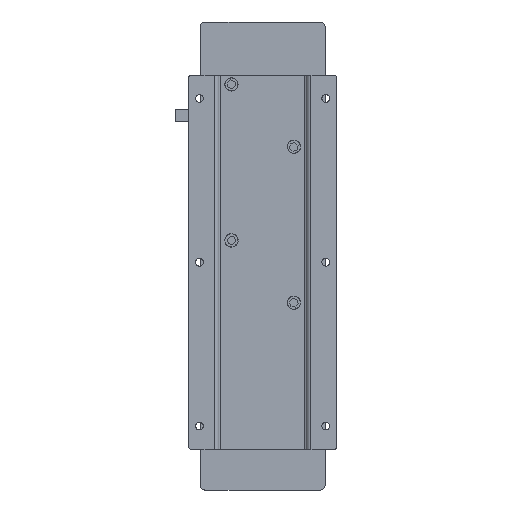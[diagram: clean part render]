
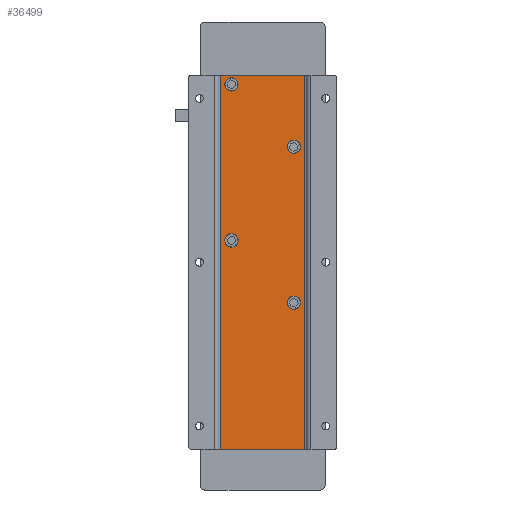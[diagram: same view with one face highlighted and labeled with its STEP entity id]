
A CAD part, left-side view. The second image highlights one B-rep face of the part: STEP entity #36499.
In plain terms, the highlighted planar face has unit normal (-1, 0, 0) as drawn and (0, 0, -1) by its records, which use the part's own axes.
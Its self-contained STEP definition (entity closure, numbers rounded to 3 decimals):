
#96 = CARTESIAN_POINT ( 'NONE',  ( -120., 27., -2. ) ) ;
#215 = ORIENTED_EDGE ( 'NONE', *, *, #20858, .T. ) ;
#477 = DIRECTION ( 'NONE',  ( 0., 0., 1. ) ) ;
#755 = DIRECTION ( 'NONE',  ( 1., 0., 0. ) ) ;
#795 = CARTESIAN_POINT ( 'NONE',  ( -70.75, -20., -2. ) ) ;
#954 = DIRECTION ( 'NONE',  ( 1., 0., 0. ) ) ;
#1158 = PLANE ( 'NONE',  #14494 ) ;
#1182 = VERTEX_POINT ( 'NONE', #6146 ) ;
#1334 = CIRCLE ( 'NONE', #19729, 3.25 ) ;
#1970 = CARTESIAN_POINT ( 'NONE',  ( -17.25, 20., -2. ) ) ;
#2061 = ORIENTED_EDGE ( 'NONE', *, *, #35864, .T. ) ;
#2473 = CARTESIAN_POINT ( 'NONE',  ( 120., -27., -2. ) ) ;
#3350 = ORIENTED_EDGE ( 'NONE', *, *, #24666, .T. ) ;
#3461 = LINE ( 'NONE', #31400, #30893 ) ;
#3666 = FACE_BOUND ( 'NONE', #5607, .T. ) ;
#3846 = FACE_BOUND ( 'NONE', #39531, .T. ) ;
#4056 = FACE_BOUND ( 'NONE', #26020, .T. ) ;
#4147 = AXIS2_PLACEMENT_3D ( 'NONE', #31797, #16002, #25839 ) ;
#4346 = CARTESIAN_POINT ( 'NONE',  ( -110.75, 20., -2. ) ) ;
#4724 = VERTEX_POINT ( 'NONE', #795 ) ;
#5052 = CARTESIAN_POINT ( 'NONE',  ( 120., -27., -2. ) ) ;
#5352 = EDGE_CURVE ( 'NONE', #11430, #29804, #17433, .T. ) ;
#5607 = EDGE_LOOP ( 'NONE', ( #37271, #3350 ) ) ;
#5617 = EDGE_CURVE ( 'NONE', #33230, #1182, #29038, .T. ) ;
#5798 = ORIENTED_EDGE ( 'NONE', *, *, #37849, .F. ) ;
#6146 = CARTESIAN_POINT ( 'NONE',  ( 29.25, -20., -2. ) ) ;
#6563 = AXIS2_PLACEMENT_3D ( 'NONE', #9652, #40482, #15636 ) ;
#7116 = DIRECTION ( 'NONE',  ( 0., 1., 0. ) ) ;
#7271 = VERTEX_POINT ( 'NONE', #18611 ) ;
#7561 = FACE_BOUND ( 'NONE', #21890, .T. ) ;
#8453 = DIRECTION ( 'NONE',  ( 0., 0., 1. ) ) ;
#8529 = CIRCLE ( 'NONE', #6563, 3.25 ) ;
#8562 = VECTOR ( 'NONE', #38183, 1000. ) ;
#9652 = CARTESIAN_POINT ( 'NONE',  ( -74., -20., -2. ) ) ;
#9967 = CARTESIAN_POINT ( 'NONE',  ( 26., -20., -2. ) ) ;
#10241 = FACE_OUTER_BOUND ( 'NONE', #19948, .T. ) ;
#10852 = LINE ( 'NONE', #35493, #8562 ) ;
#11430 = VERTEX_POINT ( 'NONE', #17584 ) ;
#11629 = EDGE_CURVE ( 'NONE', #1182, #33230, #1334, .T. ) ;
#12011 = ORIENTED_EDGE ( 'NONE', *, *, #22193, .T. ) ;
#12455 = DIRECTION ( 'NONE',  ( 1., 0., 0. ) ) ;
#12801 = DIRECTION ( 'NONE',  ( 0., 0., 1. ) ) ;
#12990 = DIRECTION ( 'NONE',  ( 0., 0., 1. ) ) ;
#13153 = CIRCLE ( 'NONE', #24278, 3.25 ) ;
#13737 = DIRECTION ( 'NONE',  ( 0., 0., 1. ) ) ;
#14115 = VECTOR ( 'NONE', #7116, 1000. ) ;
#14430 = VERTEX_POINT ( 'NONE', #18783 ) ;
#14494 = AXIS2_PLACEMENT_3D ( 'NONE', #28935, #13737, #755 ) ;
#15636 = DIRECTION ( 'NONE',  ( 1., 0., 0. ) ) ;
#15671 = CARTESIAN_POINT ( 'NONE',  ( -114., 20., -2. ) ) ;
#16002 = DIRECTION ( 'NONE',  ( 0., 0., 1. ) ) ;
#17433 = LINE ( 'NONE', #5052, #27766 ) ;
#17584 = CARTESIAN_POINT ( 'NONE',  ( -120., -27., -2. ) ) ;
#17737 = DIRECTION ( 'NONE',  ( 1., 0., 0. ) ) ;
#17900 = CIRCLE ( 'NONE', #38214, 3.25 ) ;
#17969 = ORIENTED_EDGE ( 'NONE', *, *, #11629, .T. ) ;
#17981 = EDGE_CURVE ( 'NONE', #18779, #34188, #3461, .T. ) ;
#18611 = CARTESIAN_POINT ( 'NONE',  ( -117.25, 20., -2. ) ) ;
#18742 = DIRECTION ( 'NONE',  ( 0., 0., 1. ) ) ;
#18779 = VERTEX_POINT ( 'NONE', #27311 ) ;
#18783 = CARTESIAN_POINT ( 'NONE',  ( -10.75, 20., -2. ) ) ;
#19142 = CARTESIAN_POINT ( 'NONE',  ( 26., -20., -2. ) ) ;
#19729 = AXIS2_PLACEMENT_3D ( 'NONE', #19142, #12801, #25321 ) ;
#19948 = EDGE_LOOP ( 'NONE', ( #5798, #30315, #33947, #20375 ) ) ;
#20375 = ORIENTED_EDGE ( 'NONE', *, *, #5352, .F. ) ;
#20551 = CIRCLE ( 'NONE', #4147, 3.25 ) ;
#20858 = EDGE_CURVE ( 'NONE', #23129, #14430, #40599, .T. ) ;
#20983 = AXIS2_PLACEMENT_3D ( 'NONE', #27379, #8453, #17737 ) ;
#21041 = ORIENTED_EDGE ( 'NONE', *, *, #33425, .T. ) ;
#21890 = EDGE_LOOP ( 'NONE', ( #2061, #215 ) ) ;
#22133 = EDGE_CURVE ( 'NONE', #4724, #33280, #8529, .T. ) ;
#22193 = EDGE_CURVE ( 'NONE', #31972, #7271, #13153, .T. ) ;
#22744 = LINE ( 'NONE', #25431, #14115 ) ;
#23129 = VERTEX_POINT ( 'NONE', #1970 ) ;
#23231 = ORIENTED_EDGE ( 'NONE', *, *, #5617, .T. ) ;
#24278 = AXIS2_PLACEMENT_3D ( 'NONE', #15671, #12990, #37411 ) ;
#24666 = EDGE_CURVE ( 'NONE', #33280, #4724, #20551, .T. ) ;
#24870 = DIRECTION ( 'NONE',  ( 1., 0., 0. ) ) ;
#25092 = CARTESIAN_POINT ( 'NONE',  ( -77.25, -20., -2. ) ) ;
#25321 = DIRECTION ( 'NONE',  ( 1., 0., 0. ) ) ;
#25431 = CARTESIAN_POINT ( 'NONE',  ( 120., -27., -2. ) ) ;
#25839 = DIRECTION ( 'NONE',  ( 1., 0., 0. ) ) ;
#26020 = EDGE_LOOP ( 'NONE', ( #17969, #23231 ) ) ;
#27311 = CARTESIAN_POINT ( 'NONE',  ( 120., 27., -2. ) ) ;
#27379 = CARTESIAN_POINT ( 'NONE',  ( -14., 20., -2. ) ) ;
#27498 = EDGE_CURVE ( 'NONE', #29804, #18779, #22744, .T. ) ;
#27563 = CARTESIAN_POINT ( 'NONE',  ( -14., 20., -2. ) ) ;
#27766 = VECTOR ( 'NONE', #954, 1000. ) ;
#27792 = CARTESIAN_POINT ( 'NONE',  ( -114., 20., -2. ) ) ;
#28935 = CARTESIAN_POINT ( 'NONE',  ( 0., 0., -2. ) ) ;
#29038 = CIRCLE ( 'NONE', #34273, 3.25 ) ;
#29804 = VERTEX_POINT ( 'NONE', #2473 ) ;
#30315 = ORIENTED_EDGE ( 'NONE', *, *, #17981, .F. ) ;
#30893 = VECTOR ( 'NONE', #37352, 1000. ) ;
#31400 = CARTESIAN_POINT ( 'NONE',  ( 120., 27., -2. ) ) ;
#31797 = CARTESIAN_POINT ( 'NONE',  ( -74., -20., -2. ) ) ;
#31972 = VERTEX_POINT ( 'NONE', #4346 ) ;
#33230 = VERTEX_POINT ( 'NONE', #36181 ) ;
#33280 = VERTEX_POINT ( 'NONE', #25092 ) ;
#33425 = EDGE_CURVE ( 'NONE', #7271, #31972, #17900, .T. ) ;
#33947 = ORIENTED_EDGE ( 'NONE', *, *, #27498, .F. ) ;
#34105 = DIRECTION ( 'NONE',  ( 1., 0., 0. ) ) ;
#34188 = VERTEX_POINT ( 'NONE', #96 ) ;
#34273 = AXIS2_PLACEMENT_3D ( 'NONE', #9967, #477, #12455 ) ;
#35493 = CARTESIAN_POINT ( 'NONE',  ( -120., -27., -2. ) ) ;
#35864 = EDGE_CURVE ( 'NONE', #14430, #23129, #37370, .T. ) ;
#36181 = CARTESIAN_POINT ( 'NONE',  ( 22.75, -20., -2. ) ) ;
#36499 = ADVANCED_FACE ( 'NONE', ( #3846, #3666, #7561, #4056, #10241 ), #1158, .F. ) ;
#37271 = ORIENTED_EDGE ( 'NONE', *, *, #22133, .T. ) ;
#37298 = AXIS2_PLACEMENT_3D ( 'NONE', #27563, #18742, #34105 ) ;
#37352 = DIRECTION ( 'NONE',  ( -1., 0., 0. ) ) ;
#37370 = CIRCLE ( 'NONE', #20983, 3.25 ) ;
#37411 = DIRECTION ( 'NONE',  ( 1., 0., 0. ) ) ;
#37849 = EDGE_CURVE ( 'NONE', #34188, #11430, #10852, .T. ) ;
#38183 = DIRECTION ( 'NONE',  ( 0., -1., 0. ) ) ;
#38214 = AXIS2_PLACEMENT_3D ( 'NONE', #27792, #40310, #24870 ) ;
#39531 = EDGE_LOOP ( 'NONE', ( #12011, #21041 ) ) ;
#40310 = DIRECTION ( 'NONE',  ( 0., 0., 1. ) ) ;
#40482 = DIRECTION ( 'NONE',  ( 0., 0., 1. ) ) ;
#40599 = CIRCLE ( 'NONE', #37298, 3.25 ) ;
